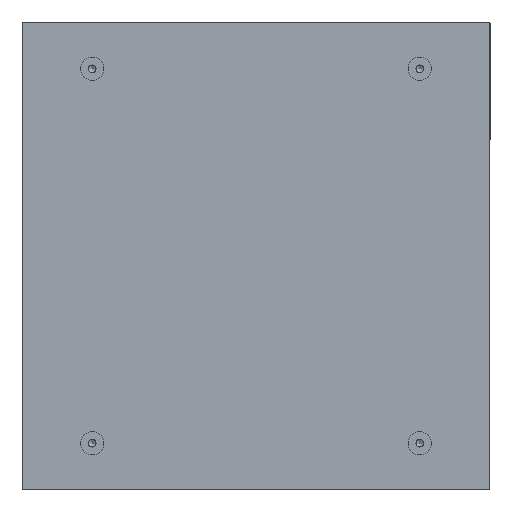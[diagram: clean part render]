
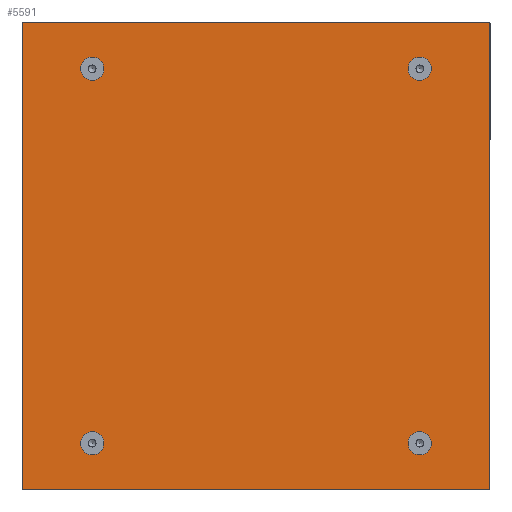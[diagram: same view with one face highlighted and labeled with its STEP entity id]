
A CAD part, left-side view. The second image highlights one B-rep face of the part: STEP entity #5591.
In plain terms, the highlighted planar face has unit normal (-1, 0, 0).
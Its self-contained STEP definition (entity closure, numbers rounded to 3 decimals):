
#451=CIRCLE('',#7448,5.125);
#453=CIRCLE('',#7451,5.125);
#455=CIRCLE('',#7454,5.125);
#456=CIRCLE('',#7483,5.125);
#1591=ORIENTED_EDGE('',*,*,#2563,.T.);
#1592=ORIENTED_EDGE('',*,*,#2564,.T.);
#1593=ORIENTED_EDGE('',*,*,#2565,.T.);
#1594=ORIENTED_EDGE('',*,*,#2566,.T.);
#1595=ORIENTED_EDGE('',*,*,#2461,.F.);
#1596=ORIENTED_EDGE('',*,*,#2463,.F.);
#1597=ORIENTED_EDGE('',*,*,#2465,.F.);
#1598=ORIENTED_EDGE('',*,*,#2567,.F.);
#2461=EDGE_CURVE('',#3047,#3047,#451,.T.);
#2463=EDGE_CURVE('',#3049,#3049,#453,.T.);
#2465=EDGE_CURVE('',#3051,#3051,#455,.T.);
#2563=EDGE_CURVE('',#3126,#3127,#3660,.T.);
#2564=EDGE_CURVE('',#3127,#3128,#3661,.T.);
#2565=EDGE_CURVE('',#3128,#3129,#3662,.T.);
#2566=EDGE_CURVE('',#3129,#3126,#3663,.T.);
#2567=EDGE_CURVE('',#3130,#3130,#456,.T.);
#3047=VERTEX_POINT('',#10312);
#3049=VERTEX_POINT('',#10317);
#3051=VERTEX_POINT('',#10322);
#3126=VERTEX_POINT('',#10523);
#3127=VERTEX_POINT('',#10524);
#3128=VERTEX_POINT('',#10526);
#3129=VERTEX_POINT('',#10528);
#3130=VERTEX_POINT('',#10531);
#3660=LINE('',#10522,#4196);
#3661=LINE('',#10525,#4197);
#3662=LINE('',#10527,#4198);
#3663=LINE('',#10529,#4199);
#4196=VECTOR('',#8847,1000.);
#4197=VECTOR('',#8848,1000.);
#4198=VECTOR('',#8849,1000.);
#4199=VECTOR('',#8850,1000.);
#4592=EDGE_LOOP('',(#1591,#1592,#1593,#1594));
#4593=EDGE_LOOP('',(#1595));
#4594=EDGE_LOOP('',(#1596));
#4595=EDGE_LOOP('',(#1597));
#4596=EDGE_LOOP('',(#1598));
#5004=FACE_BOUND('',#4592,.T.);
#5005=FACE_BOUND('',#4593,.T.);
#5006=FACE_BOUND('',#4594,.T.);
#5007=FACE_BOUND('',#4595,.T.);
#5008=FACE_BOUND('',#4596,.T.);
#5294=PLANE('',#7482);
#5591=ADVANCED_FACE('',(#5004,#5005,#5006,#5007,#5008),#5294,.T.);
#7448=AXIS2_PLACEMENT_3D('',#10311,#8680,#8681);
#7451=AXIS2_PLACEMENT_3D('',#10316,#8686,#8687);
#7454=AXIS2_PLACEMENT_3D('',#10321,#8692,#8693);
#7482=AXIS2_PLACEMENT_3D('',#10521,#8845,#8846);
#7483=AXIS2_PLACEMENT_3D('',#10530,#8851,#8852);
#8680=DIRECTION('',(-1.,0.,0.));
#8681=DIRECTION('',(0.,-1.,0.));
#8686=DIRECTION('',(-1.,0.,0.));
#8687=DIRECTION('',(0.,-1.,0.));
#8692=DIRECTION('',(-1.,0.,0.));
#8693=DIRECTION('',(0.,-1.,0.));
#8845=DIRECTION('',(-1.,0.,0.));
#8846=DIRECTION('',(0.,-1.,0.));
#8847=DIRECTION('',(0.,1.,0.));
#8848=DIRECTION('',(0.,0.,-1.));
#8849=DIRECTION('',(0.,-1.,0.));
#8850=DIRECTION('',(0.,0.,1.));
#8851=DIRECTION('',(-1.,0.,0.));
#8852=DIRECTION('',(0.,-1.,0.));
#10311=CARTESIAN_POINT('',(-1.2,105.,-120.));
#10312=CARTESIAN_POINT('',(-1.2,99.875,-120.));
#10316=CARTESIAN_POINT('',(-1.2,105.,120.));
#10317=CARTESIAN_POINT('',(-1.2,99.875,120.));
#10321=CARTESIAN_POINT('',(-1.2,-105.,-120.));
#10322=CARTESIAN_POINT('',(-1.2,-110.125,-120.));
#10521=CARTESIAN_POINT('',(-1.2,0.,0.));
#10522=CARTESIAN_POINT('',(-1.2,0.,150.));
#10523=CARTESIAN_POINT('',(-1.2,-150.,150.));
#10524=CARTESIAN_POINT('',(-1.2,150.,150.));
#10525=CARTESIAN_POINT('',(-1.2,150.,0.));
#10526=CARTESIAN_POINT('',(-1.2,150.,-150.));
#10527=CARTESIAN_POINT('',(-1.2,0.,-150.));
#10528=CARTESIAN_POINT('',(-1.2,-150.,-150.));
#10529=CARTESIAN_POINT('',(-1.2,-150.,0.));
#10530=CARTESIAN_POINT('',(-1.2,-105.,120.));
#10531=CARTESIAN_POINT('',(-1.2,-110.125,120.));
